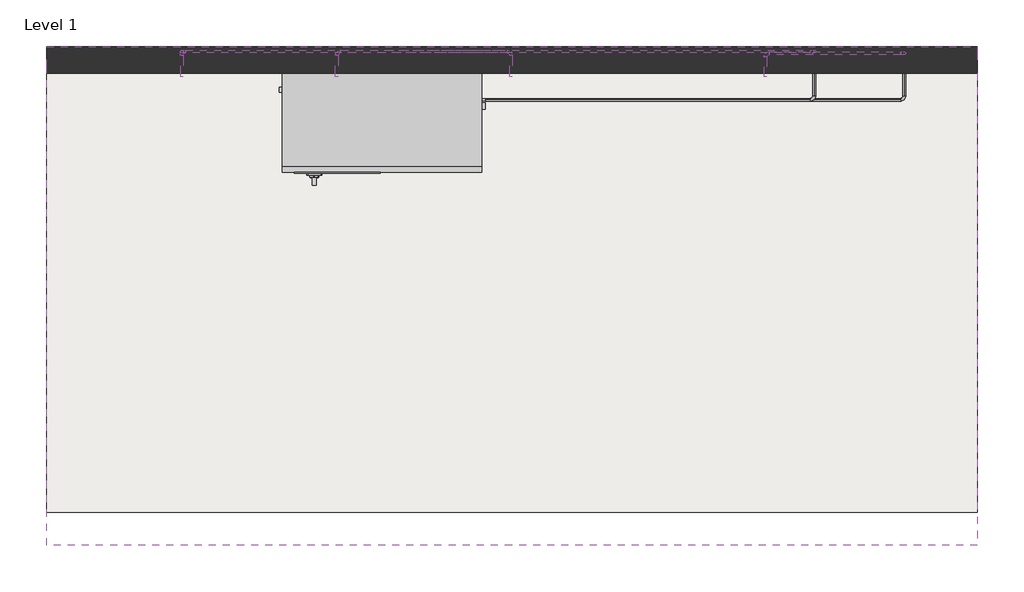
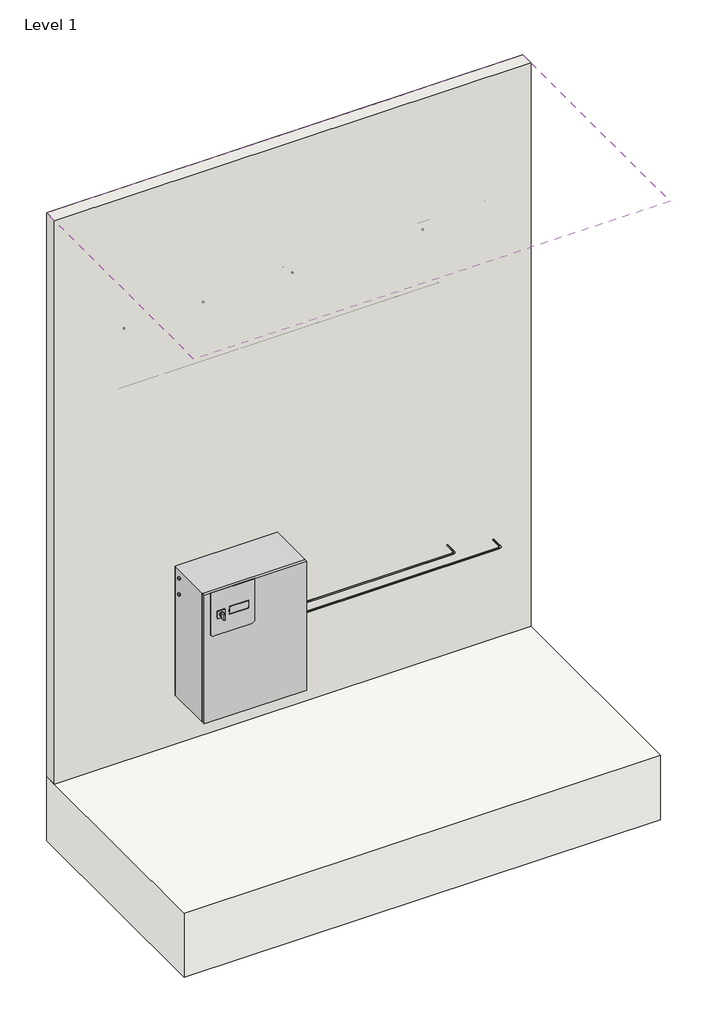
# One storey, incomplete: 14 pipe segments, 11 pipe fittings, 1 covering, 1 proxy, 1 slab, 1 wall.
"""IFC4 building model written with IfcOpenShell, lengths in millimetres."""

from ifc_helpers import new_model, si_unit, point, frame, frame_2d, origin, origin_with_axes, place, context, project, spatial, polyline, circle_curve, trimmed, segment, composite_curve, outline, extrude, faceted_brep, transform, mapped, element, save
from components import ua040dd100_16a9a5c3, m_elbow_generic_standard_787ffbaa, m_elbow_generic_standard_96996eaf, m_elbow_generic_standard_c297e379, m_elbow_generic_standard_b13e6fab, m_elbow_generic_standard_1e2c9127

model = new_model("IFC4")

# Units and contexts
model_context = context("Model", 3, world=origin())
ifc_project = project(units=[si_unit("LENGTHUNIT", "METRE", prefix="MILLI")], contexts=[model_context])

# Site, building, storey
site = spatial("IfcSite", under=ifc_project)
building = spatial("IfcBuilding", under=site)
storey = spatial("IfcBuildingStorey", under=building, Name="Level 1", Elevation=0.0)

# Proxy
placement = place(None, origin())
ua040dd100_shape = ua040dd100_16a9a5c3(model_context)
element("IfcBuildingElementProxy", 1, Name="HVAC_Other_Carel_Humidifog-Direct : UA040DD100", ObjectType="HVAC_Other_Carel_Humidifog-Direct : UA040DD100", at=placement, inside=storey, context=model_context, shape_type="MappedRepresentation", body=[
    mapped(ua040dd100_shape, transform((-5870.5233462, 2619.6946414, 306.5946986), x_axis=(1.0, 0.0, 0.0), y_axis=(0.0, 1.0, 0.0), z_axis=(0.0, 0.0, 1.0))),
])

# Covering
element("IfcCovering", 2, ObjectType="600 x 1200mm grid", at=placement, inside=storey, context=model_context, shape_type="Brep", body=[
    faceted_brep([(-4079.9233462, 2699.6946414, 3552.0), (-6879.9233462, 2699.6946414, 3552.0), (-6879.9233462, 1199.6946414, 3552.0), (-4079.9233462, 1199.6946414, 3552.0), (-4079.9233462, 2699.6946414, 3500.0), (-4079.9233462, 2619.6946414, 3500.0), (-4079.9233462, 1199.6946414, 3500.0), (-6879.9233462, 1199.6946414, 3500.0), (-6879.9233462, 2619.6946414, 3500.0), (-6879.9233462, 2699.6946414, 3500.0)], [[[0, 1, 2, 3]], [[4, 5, 6, 7, 8, 9]], [[1, 0, 4, 9]], [[2, 1, 9, 8, 7]], [[3, 2, 7, 6]], [[0, 3, 6, 5, 4]]]),
])

# Pipe fittings
m_elbow_generic_standard_shape = m_elbow_generic_standard_787ffbaa(model_context)
element("IfcPipeFitting", 3, ObjectType="M_Elbow - Generic : Standard", at=placement, inside=storey, context=model_context, shape_type="MappedRepresentation", body=[
    mapped(m_elbow_generic_standard_shape, transform((-4717.2233462, 2679.6946414, 2689.8), x_axis=(-1.0, 0.0, 0.0), y_axis=(0.0, -0.9999999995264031, 3.0776515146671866e-05), z_axis=(0.0, 3.0776515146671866e-05, 0.9999999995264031))),
])
element("IfcPipeFitting", 4, ObjectType="M_Elbow - Generic : Standard", at=placement, inside=storey, context=model_context, shape_type="MappedRepresentation", body=[
    mapped(m_elbow_generic_standard_shape, transform((-4299.9233462, 2679.6946414, 2689.8), x_axis=(1.0, 0.0, 0.0), y_axis=(0.0, 0.0, -1.0), z_axis=(0.0, 1.0, 0.0))),
])
element("IfcPipeFitting", 5, ObjectType="M_Elbow - Generic : Standard", at=placement, inside=storey, context=model_context, shape_type="MappedRepresentation", body=[
    mapped(m_elbow_generic_standard_shape, transform((-6007.2233462, 2684.6946414, 2689.8), x_axis=(-1.0, 0.0, 0.0), y_axis=(0.0, -0.9999999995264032, 3.0776515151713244e-05), z_axis=(0.0, 3.0776515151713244e-05, 0.9999999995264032))),
])
element("IfcPipeFitting", 6, ObjectType="M_Elbow - Generic : Standard", at=placement, inside=storey, context=model_context, shape_type="MappedRepresentation", body=[
    mapped(m_elbow_generic_standard_shape, transform((-5482.6233462, 2684.6946414, 2689.8), x_axis=(0.0, 0.9999999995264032, -3.0776515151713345e-05), y_axis=(-1.0000000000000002, 0.0, 0.0), z_axis=(0.0, 3.0776515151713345e-05, 0.9999999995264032))),
])
element("IfcPipeFitting", 7, ObjectType="M_Elbow - Generic : Standard", at=placement, inside=storey, context=model_context, shape_type="MappedRepresentation", body=[
    mapped(m_elbow_generic_standard_shape, transform((-4571.0358462, 2684.6946414, 2273.6244196), x_axis=(1.0, 0.0, 0.0), y_axis=(0.0, 0.0, -1.0), z_axis=(0.0, 1.0, 0.0))),
])
element("IfcPipeFitting", 8, ObjectType="M_Elbow - Generic : Standard", at=placement, inside=storey, context=model_context, shape_type="MappedRepresentation", body=[
    mapped(m_elbow_generic_standard_shape, transform((-4571.0358462, 2539.6946414, 676.5946986), x_axis=(1.0, 0.0, 0.0), y_axis=(0.0, 0.9999999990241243, 4.417863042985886e-05), z_axis=(0.0, -4.417863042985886e-05, 0.9999999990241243))),
])
element("IfcPipeFitting", 9, ObjectType="M_Elbow - Generic : Standard", at=placement, inside=storey, context=model_context, shape_type="MappedRepresentation", body=[
    mapped(m_elbow_generic_standard_shape, transform((-6472.6233462, 2684.6946414, 2273.6244196), x_axis=(-1.0, 0.0, 0.0), y_axis=(0.0, 0.0, 1.0), z_axis=(0.0, 1.0, 0.0))),
])
m_elbow_generic_standard_2_shape = m_elbow_generic_standard_96996eaf(model_context)
element("IfcPipeFitting", 10, ObjectType="M_Elbow - Generic : Standard", at=placement, inside=storey, context=model_context, shape_type="MappedRepresentation", body=[
    mapped(m_elbow_generic_standard_2_shape, transform((-4571.0358462, 2684.6946414, 676.627886), x_axis=(0.0, 0.0, -1.0), y_axis=(0.0, -1.0, 0.0), z_axis=(-1.0, 0.0, 0.0))),
])
m_elbow_generic_standard_3_shape = m_elbow_generic_standard_c297e379(model_context)
element("IfcPipeFitting", 11, ObjectType="M_Elbow - Generic : Standard", at=placement, inside=storey, context=model_context, shape_type="MappedRepresentation", body=[
    mapped(m_elbow_generic_standard_3_shape, transform((-6472.6233462, 2684.6946414, 2689.8105344), x_axis=(0.0, 0.0, 1.0), y_axis=(0.0, -1.0, 0.0), z_axis=(1.0, 0.0, 0.0))),
])
m_elbow_generic_standard_4_shape = m_elbow_generic_standard_b13e6fab(model_context)
element("IfcPipeFitting", 12, ObjectType="M_Elbow - Generic : Standard", at=placement, inside=storey, context=model_context, shape_type="MappedRepresentation", body=[
    mapped(m_elbow_generic_standard_4_shape, transform((-4299.9313914, 2539.6946414, 616.5946986), x_axis=(1.0, 0.0, 0.0), y_axis=(0.0, 0.9999999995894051, 2.8656408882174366e-05), z_axis=(0.0, -2.8656408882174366e-05, 0.9999999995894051))),
])
m_elbow_generic_standard_5_shape = m_elbow_generic_standard_1e2c9127(model_context)
element("IfcPipeFitting", 13, ObjectType="M_Elbow - Generic : Standard", at=placement, inside=storey, context=model_context, shape_type="MappedRepresentation", body=[
    mapped(m_elbow_generic_standard_5_shape, transform((-4299.9233462, 2679.6946414, 616.5987105), x_axis=(0.0, 0.0, -1.0), y_axis=(-5.74658830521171e-05, -0.9999999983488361, 0.0), z_axis=(-0.9999999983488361, 5.74658830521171e-05, 0.0))),
])

# Pipe segments
element("IfcPipeSegment", 14, ObjectType="Default", at=placement, inside=storey, context=model_context, shape_type="SweptSolid", body=[
    extrude(outline(composite_curve([segment(trimmed(circle_curve(frame_2d((2539.6946414, 676.5946986)), 4.0), [point((2535.6946414, 676.5946986))], [point((2539.6946414, 680.5946986))], False, "CARTESIAN"), True, "CONTINUOUS"), segment(trimmed(circle_curve(frame_2d((2539.6946414, 676.5946986)), 4.0), [point((2539.6946414, 680.5946986))], [point((2543.6946414, 676.5946986))], False, "CARTESIAN"), True, "CONTINUOUS"), segment(trimmed(circle_curve(frame_2d((2539.6946414, 676.5946986)), 4.0), [point((2543.6946414, 676.5946986))], [point((2539.6946414, 672.5946986))], False, "CARTESIAN"), True, "CONTINUOUS"), segment(trimmed(circle_curve(frame_2d((2539.6946414, 676.5946986)), 4.0), [point((2539.6946414, 672.5946986))], [point((2535.6946414, 676.5946986))], False, "CARTESIAN"), True, "CONTINUOUS")], self_intersect=False)), frame((-5561.0233462, 0.0, 0.0), z_axis=(1.0, 0.0, 0.0), x_axis=(0.0, 1.0, 0.0)), (0.0, 0.0, 1.0), 978.875),
])
element("IfcPipeSegment", 15, ObjectType="Default", at=placement, inside=storey, context=model_context, shape_type="SweptSolid", body=[
    extrude(outline(composite_curve([segment(trimmed(circle_curve(frame_2d((2539.6946414, 616.5946986)), 4.0), [point((2535.6946414, 616.5946986))], [point((2539.6946414, 620.5946986))], False, "CARTESIAN"), True, "CONTINUOUS"), segment(trimmed(circle_curve(frame_2d((2539.6946414, 616.5946986)), 4.0), [point((2539.6946414, 620.5946986))], [point((2543.6946414, 616.5946986))], False, "CARTESIAN"), True, "CONTINUOUS"), segment(trimmed(circle_curve(frame_2d((2539.6946414, 616.5946986)), 4.0), [point((2543.6946414, 616.5946986))], [point((2539.6946414, 612.5946986))], False, "CARTESIAN"), True, "CONTINUOUS"), segment(trimmed(circle_curve(frame_2d((2539.6946414, 616.5946986)), 4.0), [point((2539.6946414, 612.5946986))], [point((2535.6946414, 616.5946986))], False, "CARTESIAN"), True, "CONTINUOUS")], self_intersect=False)), frame((-5561.0233462, 0.0, 0.0), z_axis=(1.0, 0.0, 0.0), x_axis=(0.0, 1.0, 0.0)), (0.0, 0.0, 1.0), 1249.9800933),
])
element("IfcPipeSegment", 16, ObjectType="Default", at=placement, inside=storey, context=model_context, shape_type="SweptSolid", body=[
    extrude(outline(composite_curve([segment(trimmed(circle_curve(frame_2d((0.0, -4.0)), 4.0), [point((0.0, -8.0))], [point((-4.0, -4.0))], False, "CARTESIAN"), True, "CONTINUOUS"), segment(trimmed(circle_curve(frame_2d((0.0, -4.0)), 4.0), [point((-4.0, -4.0))], [point((0.0, 0.0))], False, "CARTESIAN"), True, "CONTINUOUS"), segment(trimmed(circle_curve(frame_2d((0.0, -4.0)), 4.0), [point((0.0, 0.0))], [point((4.0, -4.0))], False, "CARTESIAN"), True, "CONTINUOUS"), segment(trimmed(circle_curve(frame_2d((0.0, -4.0)), 4.0), [point((4.0, -4.0))], [point((0.0, -8.0))], False, "CARTESIAN"), True, "CONTINUOUS")], self_intersect=False)), frame((-6476.6233462, 2673.5835902, 2689.811983), z_axis=(0.0, -0.9999999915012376, 0.00013037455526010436), x_axis=(0.0, 0.00013037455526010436, 0.9999999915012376)), (0.0, 0.0, 1.0), 63.8889493),
])
element("IfcPipeSegment", 17, ObjectType="Default", at=placement, inside=storey, context=model_context, shape_type="SweptSolid", body=[
    extrude(outline(composite_curve([segment(trimmed(circle_curve(frame_2d((0.0, -4.0)), 4.0), [point((0.0, -8.0))], [point((-4.0, -4.0))], False, "CARTESIAN"), True, "CONTINUOUS"), segment(trimmed(circle_curve(frame_2d((0.0, -4.0)), 4.0), [point((-4.0, -4.0))], [point((0.0, 0.0))], False, "CARTESIAN"), True, "CONTINUOUS"), segment(trimmed(circle_curve(frame_2d((0.0, -4.0)), 4.0), [point((0.0, 0.0))], [point((4.0, -4.0))], False, "CARTESIAN"), True, "CONTINUOUS"), segment(trimmed(circle_curve(frame_2d((0.0, -4.0)), 4.0), [point((4.0, -4.0))], [point((0.0, -8.0))], False, "CARTESIAN"), True, "CONTINUOUS")], self_intersect=False)), frame((-6011.2233462, 2673.5821414, 2689.800342), z_axis=(0.0, -0.9999999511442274, 0.0003125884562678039), x_axis=(0.0, 0.0003125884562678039, 0.9999999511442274)), (0.0, 0.0, 1.0), 63.8875031),
])
element("IfcPipeSegment", 18, ObjectType="Default", at=placement, inside=storey, context=model_context, shape_type="SweptSolid", body=[
    extrude(outline(composite_curve([segment(trimmed(circle_curve(frame_2d((0.0, 4.0)), 4.0), [point((0.0, 0.0))], [point((-4.0, 4.0))], False, "CARTESIAN"), True, "CONTINUOUS"), segment(trimmed(circle_curve(frame_2d((0.0, 4.0)), 4.0), [point((-4.0, 4.0))], [point((0.0, 8.0))], False, "CARTESIAN"), True, "CONTINUOUS"), segment(trimmed(circle_curve(frame_2d((0.0, 4.0)), 4.0), [point((0.0, 8.0))], [point((4.0, 4.0))], False, "CARTESIAN"), True, "CONTINUOUS"), segment(trimmed(circle_curve(frame_2d((0.0, 4.0)), 4.0), [point((4.0, 4.0))], [point((0.0, 0.0))], False, "CARTESIAN"), True, "CONTINUOUS")], self_intersect=False)), frame((-5486.6233462, 2673.5821414, 2689.800342), z_axis=(0.0, -0.9999999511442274, 0.0003125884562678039), x_axis=(0.0, -0.0003125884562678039, -0.9999999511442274)), (0.0, 0.0, 1.0), 63.8875031),
])
element("IfcPipeSegment", 19, ObjectType="Default", at=placement, inside=storey, context=model_context, shape_type="SweptSolid", body=[
    extrude(outline(composite_curve([segment(trimmed(circle_curve(frame_2d((0.0, -4.0)), 4.0), [point((0.0, -8.0))], [point((-4.0, -4.0))], False, "CARTESIAN"), True, "CONTINUOUS"), segment(trimmed(circle_curve(frame_2d((0.0, -4.0)), 4.0), [point((-4.0, -4.0))], [point((0.0, 0.0))], False, "CARTESIAN"), True, "CONTINUOUS"), segment(trimmed(circle_curve(frame_2d((0.0, -4.0)), 4.0), [point((0.0, 0.0))], [point((4.0, -4.0))], False, "CARTESIAN"), True, "CONTINUOUS"), segment(trimmed(circle_curve(frame_2d((0.0, -4.0)), 4.0), [point((4.0, -4.0))], [point((0.0, -8.0))], False, "CARTESIAN"), True, "CONTINUOUS")], self_intersect=False)), frame((-4721.2233462, 2668.5821414, 2689.800342), z_axis=(0.0, -0.9999999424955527, 0.00033912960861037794), x_axis=(0.0, 0.00033912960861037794, 0.9999999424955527)), (0.0, 0.0, 1.0), 58.8875034),
])
element("IfcPipeSegment", 20, ObjectType="Default", at=placement, inside=storey, context=model_context, shape_type="SweptSolid", body=[
    extrude(outline(composite_curve([segment(trimmed(circle_curve(frame_2d((2679.6946414, 2689.8)), 4.0), [point((2675.6946414, 2689.8))], [point((2679.6946414, 2693.8))], False, "CARTESIAN"), True, "CONTINUOUS"), segment(trimmed(circle_curve(frame_2d((2679.6946414, 2689.8)), 4.0), [point((2679.6946414, 2693.8))], [point((2683.6946414, 2689.8))], False, "CARTESIAN"), True, "CONTINUOUS"), segment(trimmed(circle_curve(frame_2d((2679.6946414, 2689.8)), 4.0), [point((2683.6946414, 2689.8))], [point((2679.6946414, 2685.8))], False, "CARTESIAN"), True, "CONTINUOUS"), segment(trimmed(circle_curve(frame_2d((2679.6946414, 2689.8)), 4.0), [point((2679.6946414, 2685.8))], [point((2675.6946414, 2689.8))], False, "CARTESIAN"), True, "CONTINUOUS")], self_intersect=False)), frame((-4706.1108462, 0.0, 0.0), z_axis=(1.0, 0.0, 0.0), x_axis=(0.0, 1.0, 0.0)), (0.0, 0.0, 1.0), 395.075),
])
element("IfcPipeSegment", 21, ObjectType="Default", at=placement, inside=storey, context=model_context, shape_type="SweptSolid", body=[
    extrude(outline(composite_curve([segment(trimmed(circle_curve(frame_2d((-4299.9233462, 2679.6946414)), 4.0), [point((-4295.9233462, 2679.6946414))], [point((-4299.9233462, 2675.6946414))], False, "CARTESIAN"), True, "CONTINUOUS"), segment(trimmed(circle_curve(frame_2d((-4299.9233462, 2679.6946414)), 4.0), [point((-4299.9233462, 2675.6946414))], [point((-4303.9233462, 2679.6946414))], False, "CARTESIAN"), True, "CONTINUOUS"), segment(trimmed(circle_curve(frame_2d((-4299.9233462, 2679.6946414)), 4.0), [point((-4303.9233462, 2679.6946414))], [point((-4299.9233462, 2683.6946414))], False, "CARTESIAN"), True, "CONTINUOUS"), segment(trimmed(circle_curve(frame_2d((-4299.9233462, 2679.6946414)), 4.0), [point((-4299.9233462, 2683.6946414))], [point((-4295.9233462, 2679.6946414))], False, "CARTESIAN"), True, "CONTINUOUS")], self_intersect=False)), frame((0.0, 0.0, 627.710892), z_axis=(0.0, 0.0, 1.0), x_axis=(1.0, 0.0, 0.0)), (0.0, 0.0, 1.0), 2050.976608),
])
element("IfcPipeSegment", 22, ObjectType="Default", at=placement, inside=storey, context=model_context, shape_type="SweptSolid", body=[
    extrude(outline(composite_curve([segment(trimmed(circle_curve(frame_2d((2684.6946414, 2689.8)), 4.0), [point((2680.6946414, 2689.8))], [point((2684.6946414, 2693.8))], False, "CARTESIAN"), True, "CONTINUOUS"), segment(trimmed(circle_curve(frame_2d((2684.6946414, 2689.8)), 4.0), [point((2684.6946414, 2693.8))], [point((2688.6946414, 2689.8))], False, "CARTESIAN"), True, "CONTINUOUS"), segment(trimmed(circle_curve(frame_2d((2684.6946414, 2689.8)), 4.0), [point((2688.6946414, 2689.8))], [point((2684.6946414, 2685.8))], False, "CARTESIAN"), True, "CONTINUOUS"), segment(trimmed(circle_curve(frame_2d((2684.6946414, 2689.8)), 4.0), [point((2684.6946414, 2685.8))], [point((2680.6946414, 2689.8))], False, "CARTESIAN"), True, "CONTINUOUS")], self_intersect=False)), frame((-5996.1108462, 0.0, 0.0), z_axis=(1.0, 0.0, 0.0), x_axis=(0.0, 1.0, 0.0)), (0.0, 0.0, 1.0), 502.375),
])
element("IfcPipeSegment", 23, ObjectType="Default", at=placement, inside=storey, context=model_context, shape_type="SweptSolid", body=[
    extrude(outline(composite_curve([segment(trimmed(circle_curve(frame_2d((0.0, -3.9999999)), 4.0), [point((0.0, 0.0))], [point((4.0, -4.0))], False, "CARTESIAN"), True, "CONTINUOUS"), segment(trimmed(circle_curve(frame_2d((0.0, -3.9999999)), 4.0), [point((4.0, -4.0))], [point((0.0, -7.9999999))], False, "CARTESIAN"), True, "CONTINUOUS"), segment(trimmed(circle_curve(frame_2d((0.0, -3.9999999)), 4.0), [point((0.0, -7.9999999))], [point((-4.0, -3.9999999))], False, "CARTESIAN"), True, "CONTINUOUS"), segment(trimmed(circle_curve(frame_2d((0.0, -3.9999999)), 4.0), [point((-4.0, -3.9999999))], [point((0.0, 0.0))], False, "CARTESIAN"), True, "CONTINUOUS")], self_intersect=False)), frame((-4303.9307528, 2550.8067327, 616.595017), z_axis=(5.746588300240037e-05, 0.9999999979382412, 2.8656408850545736e-05), x_axis=(1.646766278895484e-09, 2.8656408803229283e-05, -0.9999999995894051)), (0.0, 0.0, 1.0), 117.7759573),
])
element("IfcPipeSegment", 24, ObjectType="Default", at=placement, inside=storey, context=model_context, shape_type="SweptSolid", body=[
    extrude(outline(composite_curve([segment(trimmed(circle_curve(frame_2d((0.0, -4.0)), 4.0), [point((0.0, 0.0))], [point((4.0, -4.0))], False, "CARTESIAN"), True, "CONTINUOUS"), segment(trimmed(circle_curve(frame_2d((0.0, -4.0)), 4.0), [point((4.0, -4.0))], [point((0.0, -8.0))], False, "CARTESIAN"), True, "CONTINUOUS"), segment(trimmed(circle_curve(frame_2d((0.0, -4.0)), 4.0), [point((0.0, -8.0))], [point((-4.0, -4.0))], False, "CARTESIAN"), True, "CONTINUOUS"), segment(trimmed(circle_curve(frame_2d((0.0, -4.0)), 4.0), [point((-4.0, -4.0))], [point((0.0, 0.0))], False, "CARTESIAN"), True, "CONTINUOUS")], self_intersect=False)), frame((-4575.0358462, 2550.8071414, 676.5951895), z_axis=(0.0, 0.99999996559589, 0.0002623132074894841), x_axis=(0.0, 0.0002623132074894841, -0.99999996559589)), (0.0, 0.0, 1.0), 122.7754952),
])
element("IfcPipeSegment", 25, ObjectType="Default", at=placement, inside=storey, context=model_context, shape_type="SweptSolid", body=[
    extrude(outline(composite_curve([segment(trimmed(circle_curve(frame_2d((-4571.0358462, 2684.6946414)), 4.0), [point((-4567.0358462, 2684.6946414))], [point((-4571.0358462, 2680.6946414))], False, "CARTESIAN"), True, "CONTINUOUS"), segment(trimmed(circle_curve(frame_2d((-4571.0358462, 2684.6946414)), 4.0), [point((-4571.0358462, 2680.6946414))], [point((-4575.0358462, 2684.6946414))], False, "CARTESIAN"), True, "CONTINUOUS"), segment(trimmed(circle_curve(frame_2d((-4571.0358462, 2684.6946414)), 4.0), [point((-4575.0358462, 2684.6946414))], [point((-4571.0358462, 2688.6946414))], False, "CARTESIAN"), True, "CONTINUOUS"), segment(trimmed(circle_curve(frame_2d((-4571.0358462, 2684.6946414)), 4.0), [point((-4571.0358462, 2688.6946414))], [point((-4567.0358462, 2684.6946414))], False, "CARTESIAN"), True, "CONTINUOUS")], self_intersect=False)), frame((0.0, 0.0, 687.7398951), z_axis=(0.0, 0.0, 1.0), x_axis=(1.0, 0.0, 0.0)), (0.0, 0.0, 1.0), 1574.7720244),
])
element("IfcPipeSegment", 26, ObjectType="Default", at=placement, inside=storey, context=model_context, shape_type="SweptSolid", body=[
    extrude(outline(composite_curve([segment(trimmed(circle_curve(frame_2d((-6472.6233462, 2684.6946414)), 4.0), [point((-6476.6233462, 2684.6946414))], [point((-6472.6233462, 2688.6946414))], False, "CARTESIAN"), True, "CONTINUOUS"), segment(trimmed(circle_curve(frame_2d((-6472.6233462, 2684.6946414)), 4.0), [point((-6472.6233462, 2688.6946414))], [point((-6468.6233462, 2684.6946414))], False, "CARTESIAN"), True, "CONTINUOUS"), segment(trimmed(circle_curve(frame_2d((-6472.6233462, 2684.6946414)), 4.0), [point((-6468.6233462, 2684.6946414))], [point((-6472.6233462, 2680.6946414))], False, "CARTESIAN"), True, "CONTINUOUS"), segment(trimmed(circle_curve(frame_2d((-6472.6233462, 2684.6946414)), 4.0), [point((-6472.6233462, 2680.6946414))], [point((-6476.6233462, 2684.6946414))], False, "CARTESIAN"), True, "CONTINUOUS")], self_intersect=False)), frame((0.0, 0.0, 2284.7369196), z_axis=(0.0, 0.0, 1.0), x_axis=(1.0, 0.0, 0.0)), (0.0, 0.0, 1.0), 393.9625635),
])
element("IfcPipeSegment", 27, ObjectType="Default", at=placement, inside=storey, context=model_context, shape_type="SweptSolid", body=[
    extrude(outline(composite_curve([segment(trimmed(circle_curve(frame_2d((2684.6946414, 2273.6244196)), 4.0), [point((2688.6946414, 2273.6244196))], [point((2684.6946414, 2269.6244196))], False, "CARTESIAN"), True, "CONTINUOUS"), segment(trimmed(circle_curve(frame_2d((2684.6946414, 2273.6244196)), 4.0), [point((2684.6946414, 2269.6244196))], [point((2680.6946414, 2273.6244196))], False, "CARTESIAN"), True, "CONTINUOUS"), segment(trimmed(circle_curve(frame_2d((2684.6946414, 2273.6244196)), 4.0), [point((2680.6946414, 2273.6244196))], [point((2684.6946414, 2277.6244196))], False, "CARTESIAN"), True, "CONTINUOUS"), segment(trimmed(circle_curve(frame_2d((2684.6946414, 2273.6244196)), 4.0), [point((2684.6946414, 2277.6244196))], [point((2688.6946414, 2273.6244196))], False, "CARTESIAN"), True, "CONTINUOUS")], self_intersect=False)), frame((-6461.5108462, 0.0, 0.0), z_axis=(1.0, 0.0, 0.0), x_axis=(0.0, 1.0, 0.0)), (0.0, 0.0, 1.0), 1879.3625),
])

# Slab
element("IfcSlab", 28, ObjectType="Generic Floor - 400mm", at=placement, inside=storey, context=model_context, shape_type="Brep", body=[
    faceted_brep([(-4079.9233462, 1299.6946414, -400.0), (-6879.9233462, 1299.6946414, -400.0), (-6879.9233462, 2699.6946414, -400.0), (-4079.9233462, 2699.6946414, -400.0), (-4079.9233462, 1299.6946414, 0.0), (-4079.9233462, 2619.6946414, 0.0), (-4079.9233462, 2699.6946414, 0.0), (-6879.9233462, 2699.6946414, 0.0), (-6879.9233462, 2619.6946414, 0.0), (-6879.9233462, 1299.6946414, 0.0)], [[[0, 1, 2, 3]], [[4, 5, 6, 7, 8, 9]], [[1, 0, 4, 9]], [[2, 1, 9, 8, 7]], [[3, 2, 7, 6]], [[0, 3, 6, 5, 4]]]),
])

# Wall
element("IfcWall", 29, ObjectType="Interior - 79mm Partition (1-hr)", at=placement, inside=storey, context=model_context, shape_type="SweptSolid", body=[
    extrude(outline(polyline([(-4079.9233462, 2619.6946414), (-6879.9233462, 2619.6946414), (-6879.9233462, 2699.6946414), (-4079.9233462, 2699.6946414), (-4079.9233462, 2619.6946414)])), origin_with_axes(), (0.0, 0.0, 1.0), 3500.0),
])

save(model, "model.ifc")
